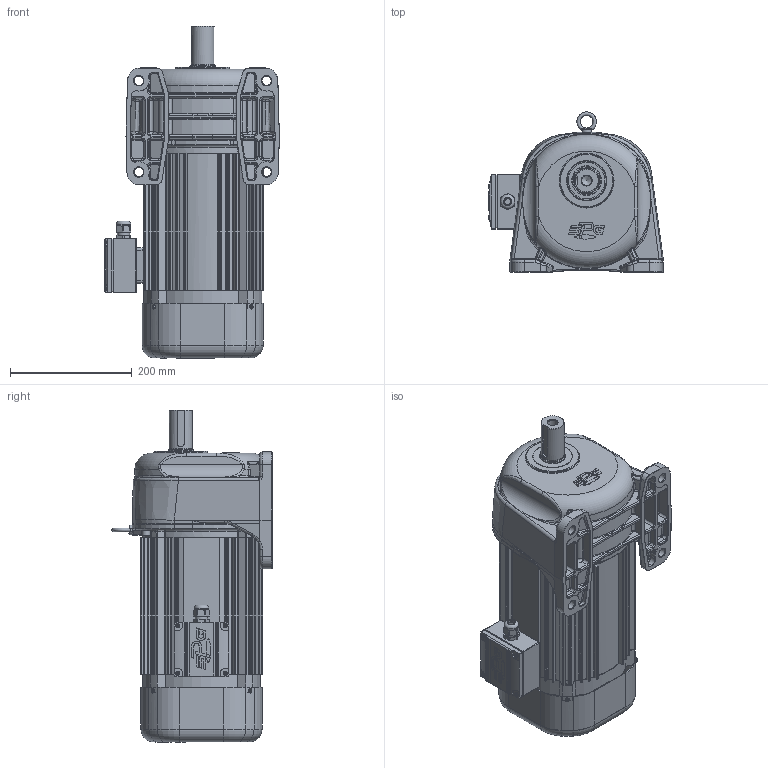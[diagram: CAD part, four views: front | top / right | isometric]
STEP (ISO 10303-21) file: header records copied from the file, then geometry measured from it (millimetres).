
FILE_DESCRIPTION(/* description */ (''),/* implementation_level */ '2;1');
FILE_NAME(/* name */ 'PAL40_Brake_2.2kW_3D.stp',/* time_stamp */ '2026-03-18T18:04:13+09:00',/* author */ ('jaebok'),/* organization */ (''),/* preprocessor_version */ 'ST-DEVELOPER v20.1',/* originating_system */ 'Autodesk Inventor 2026',/* authorisation */ '');
FILE_SCHEMA (('AUTOMOTIVE_DESIGN { 1 0 10303 214 3 1 1 }'));
Length unit declared in the file: millimetre
Products named in the file (1): 부품2
Bounding box: 287 x 263.22 x 545.6 mm (x, y, z)
Volume: 5424323 mm3; surface area: 1273810.7 mm2
Topology: 2 solids, 33 shells, 4005 faces, 9981 edges, 5947 vertices
Faces by surface type: cylinder 1153, plane 1130, bspline 1060, torus 358, cone 216, sphere 88
Full cylindrical faces by diameter (mm): 2 x1, 3.242 x4, 3.25 x1, 3.6 x4, 4 x21, 5 x13, 6 x5, 6.647 x5, 6.8 x4, 7 x9, 8 x9, 8.8 x4, 9 x4, 10 x1, 12 x4, 12.5 x1, 13 x4, 15 x5, 16 x1, 20 x2, 20.6 x1, 21 x1, 23.5 x1, 23.6 x1, 25 x1, 28 x1, 36 x1, 38 x1, 39.6 x1, 40 x1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
Entity records: 158923 total; most frequent: CARTESIAN_POINT 65748, ORIENTED_EDGE 19574, DIRECTION 17439, EDGE_CURVE 9787, AXIS2_PLACEMENT_3D 7063, VERTEX_POINT 5946, EDGE_LOOP 4230, FACE_OUTER_BOUND 4005
